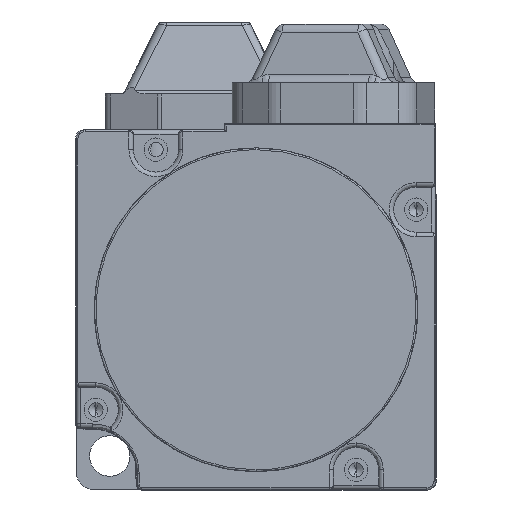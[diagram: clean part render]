
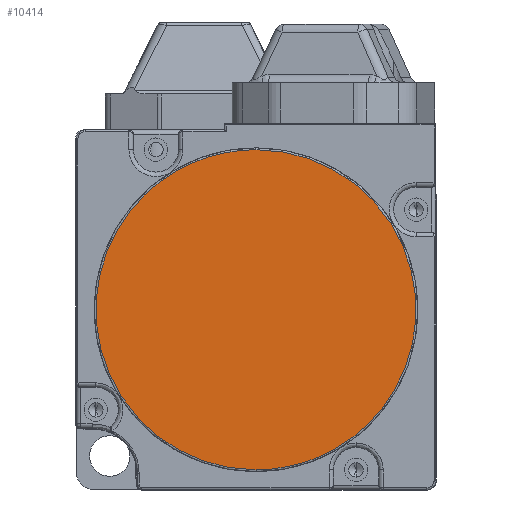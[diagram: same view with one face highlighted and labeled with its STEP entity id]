
A CAD part, front view. The second image highlights one B-rep face of the part: STEP entity #10414.
In plain terms, the highlighted planar face has unit normal (0, -1, 0).
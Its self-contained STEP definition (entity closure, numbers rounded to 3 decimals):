
#1340 = EDGE_CURVE ( 'NONE', #14469, #10934, #6739, .T. ) ;
#2082 = DIRECTION ( 'NONE',  ( 0., 1., 0. ) ) ;
#2521 = ORIENTED_EDGE ( 'NONE', *, *, #1340, .F. ) ;
#3443 = CARTESIAN_POINT ( 'NONE',  ( 0., 0., 17.8 ) ) ;
#3659 =( BOUNDED_CURVE ( )  B_SPLINE_CURVE ( 3, ( #5689, #4299, #8289, #10990 ),
 .UNSPECIFIED., .F., .F. ) 
 B_SPLINE_CURVE_WITH_KNOTS ( ( 4, 4 ),
 ( 0., 1. ),
 .UNSPECIFIED. ) 
 CURVE ( )  GEOMETRIC_REPRESENTATION_ITEM ( )  RATIONAL_B_SPLINE_CURVE ( ( 1., 0.333, 0.333, 1. ) ) 
 REPRESENTATION_ITEM ( '' )  );
#3785 = EDGE_LOOP ( 'NONE', ( #10197, #2521 ) ) ;
#4299 = CARTESIAN_POINT ( 'NONE',  ( 35.6, 0., 17.8 ) ) ;
#5424 = EDGE_CURVE ( 'NONE', #10934, #14469, #3659, .T. ) ;
#5689 = CARTESIAN_POINT ( 'NONE',  ( 0., 0., 17.8 ) ) ;
#6739 =( BOUNDED_CURVE ( )  B_SPLINE_CURVE ( 3, ( #11768, #17086, #16743, #3443 ),
 .UNSPECIFIED., .F., .F. ) 
 B_SPLINE_CURVE_WITH_KNOTS ( ( 4, 4 ),
 ( 0., 1. ),
 .UNSPECIFIED. ) 
 CURVE ( )  GEOMETRIC_REPRESENTATION_ITEM ( )  RATIONAL_B_SPLINE_CURVE ( ( 1., 0.333, 0.333, 1. ) ) 
 REPRESENTATION_ITEM ( '' )  );
#7288 = FACE_OUTER_BOUND ( 'NONE', #3785, .T. ) ;
#8289 = CARTESIAN_POINT ( 'NONE',  ( 35.6, 0., -17.8 ) ) ;
#10197 = ORIENTED_EDGE ( 'NONE', *, *, #5424, .F. ) ;
#10414 = ADVANCED_FACE ( 'NONE', ( #7288 ), #15463, .F. ) ;
#10655 = CARTESIAN_POINT ( 'NONE',  ( 0., 0., -17.8 ) ) ;
#10934 = VERTEX_POINT ( 'NONE', #14215 ) ;
#10990 = CARTESIAN_POINT ( 'NONE',  ( 0., 0., -17.8 ) ) ;
#11173 = AXIS2_PLACEMENT_3D ( 'NONE', #14227, #2082, #14068 ) ;
#11768 = CARTESIAN_POINT ( 'NONE',  ( 0., 0., -17.8 ) ) ;
#14068 = DIRECTION ( 'NONE',  ( 1., 0., 0. ) ) ;
#14215 = CARTESIAN_POINT ( 'NONE',  ( 0., 0., 17.8 ) ) ;
#14227 = CARTESIAN_POINT ( 'NONE',  ( 0., 0., 0. ) ) ;
#14469 = VERTEX_POINT ( 'NONE', #10655 ) ;
#15463 = PLANE ( 'NONE',  #11173 ) ;
#16743 = CARTESIAN_POINT ( 'NONE',  ( -35.6, 0., 17.8 ) ) ;
#17086 = CARTESIAN_POINT ( 'NONE',  ( -35.6, 0., -17.8 ) ) ;
